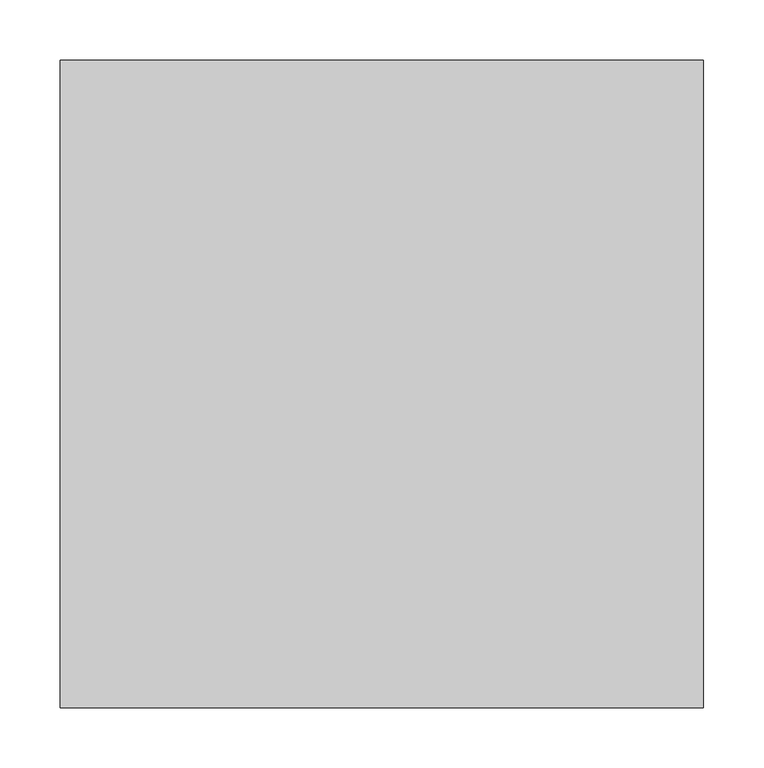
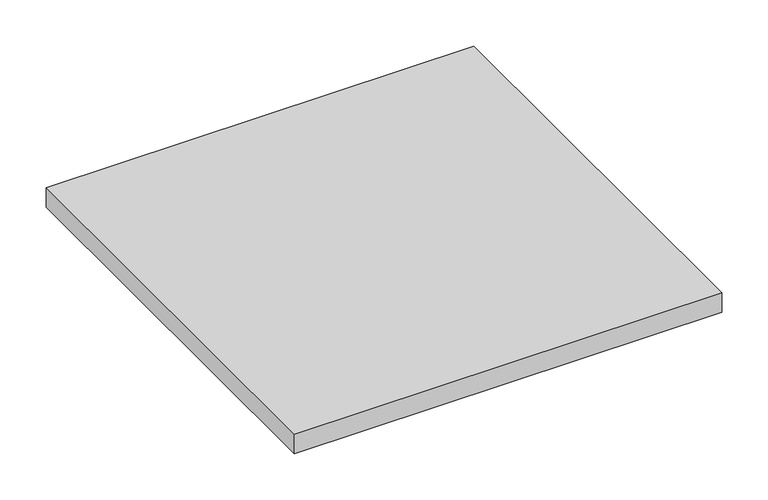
"""IFC4 building model written with IfcOpenShell, lengths in millimetres: furniture geometry."""

from ifc_helpers import new_model, si_unit, frame, origin, place, context, project, spatial, polyline, outline, extrude, source, transform, mapped, element, save


def furniture_cb19eb71(model_context):
    return source(origin(), model_context, "Body", "SweptSolid", [
        extrude(outline(polyline([(106.5641996, 262.7913812), (-425.2610004, 262.7913812), (-425.2610004, 797.7915812), (106.5641996, 797.7915812), (106.5641996, 262.7913812)])), frame((0.0, 0.0, 480.17176), z_axis=(0.0, 0.0, 1.0), x_axis=(1.0, 0.0, 0.0)), (0.0, 0.0, 1.0), 25.4),
    ])


if __name__ == "__main__":
    model = new_model("IFC4")
    model_context = context("Model", 3, world=origin())
    ifc_project = project(units=[si_unit("LENGTHUNIT", "METRE", prefix="MILLI")], contexts=[model_context])
    site = spatial("IfcSite", under=ifc_project)
    building = spatial("IfcBuilding", under=site)
    placement = place(None, origin())
    furniture_shape = furniture_cb19eb71(model_context)
    element("IfcFurniture", 1, ObjectType="HermanMiller_CoStruc_C5041_StorageCaseShelf : 23\"D x 22\"W", at=placement, inside=building, context=model_context, shape_type="MappedRepresentation", body=[
        mapped(furniture_shape, transform((0.0, 0.0, 0.0), x_axis=(1.0, 0.0, 0.0), y_axis=(0.0, 1.0, 0.0), z_axis=(0.0, 0.0, 1.0))),
    ])
    save(model, "model.ifc")
